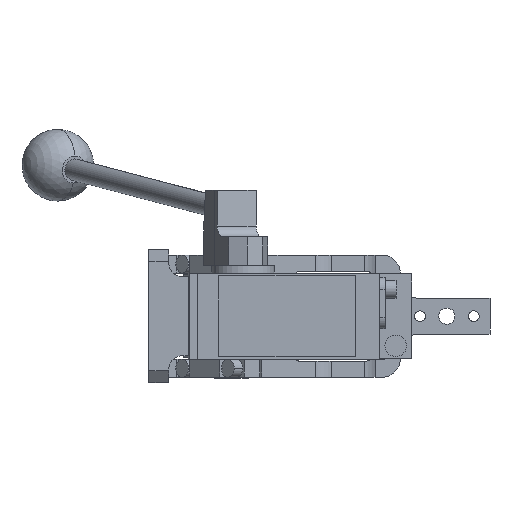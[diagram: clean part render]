
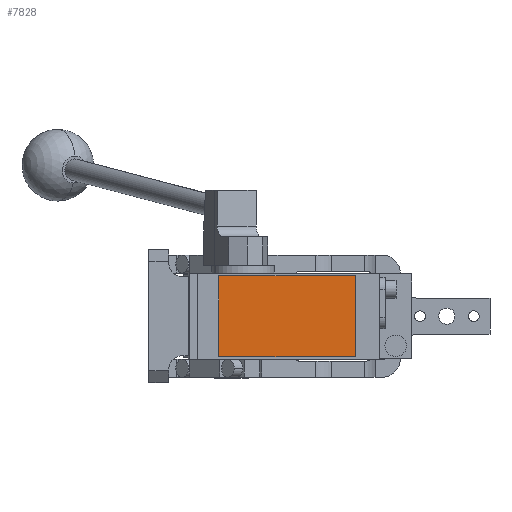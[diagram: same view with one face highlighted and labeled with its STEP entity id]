
A CAD part, front view. The second image highlights one B-rep face of the part: STEP entity #7828.
In plain terms, the highlighted planar face has unit normal (0, -1, 0).
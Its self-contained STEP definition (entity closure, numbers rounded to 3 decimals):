
#409 = CARTESIAN_POINT ( 'NONE',  ( -7., -280.5, 22.5 ) ) ;
#923 = CARTESIAN_POINT ( 'NONE',  ( -7., -280.5, -22.5 ) ) ;
#965 = EDGE_CURVE ( 'NONE', #5249, #5210, #15199, .T. ) ;
#1443 = VERTEX_POINT ( 'NONE', #4477 ) ;
#1652 = LINE ( 'NONE', #409, #4927 ) ;
#1692 = EDGE_CURVE ( 'NONE', #1443, #5249, #9646, .T. ) ;
#2604 = DIRECTION ( 'NONE',  ( 0., 0., -1. ) ) ;
#2865 = DIRECTION ( 'NONE',  ( -1., 0., 0. ) ) ;
#2981 = VECTOR ( 'NONE', #7024, 1000. ) ;
#3198 = ORIENTED_EDGE ( 'NONE', *, *, #1692, .T. ) ;
#3478 = DIRECTION ( 'NONE',  ( 0., 0., 1. ) ) ;
#4081 = EDGE_LOOP ( 'NONE', ( #8521, #9426, #3198, #10963 ) ) ;
#4477 = CARTESIAN_POINT ( 'NONE',  ( 69., -280.5, -22.5 ) ) ;
#4927 = VECTOR ( 'NONE', #5310, 1000. ) ;
#4978 = DIRECTION ( 'NONE',  ( 0., -1., 0. ) ) ;
#5210 = VERTEX_POINT ( 'NONE', #13107 ) ;
#5212 = CARTESIAN_POINT ( 'NONE',  ( -7., -280.5, -22.5 ) ) ;
#5249 = VERTEX_POINT ( 'NONE', #5574 ) ;
#5310 = DIRECTION ( 'NONE',  ( 0., 0., -1. ) ) ;
#5574 = CARTESIAN_POINT ( 'NONE',  ( 69., -280.5, 22.5 ) ) ;
#6117 = EDGE_CURVE ( 'NONE', #7757, #1443, #13025, .T. ) ;
#7024 = DIRECTION ( 'NONE',  ( 1., 0., 0. ) ) ;
#7239 = AXIS2_PLACEMENT_3D ( 'NONE', #9977, #4978, #2604 ) ;
#7757 = VERTEX_POINT ( 'NONE', #5212 ) ;
#7828 = ADVANCED_FACE ( 'NONE', ( #16011 ), #12329, .T. ) ;
#8278 = VECTOR ( 'NONE', #2865, 1000. ) ;
#8521 = ORIENTED_EDGE ( 'NONE', *, *, #8809, .T. ) ;
#8809 = EDGE_CURVE ( 'NONE', #5210, #7757, #1652, .T. ) ;
#9426 = ORIENTED_EDGE ( 'NONE', *, *, #6117, .T. ) ;
#9646 = LINE ( 'NONE', #14578, #12966 ) ;
#9977 = CARTESIAN_POINT ( 'NONE',  ( 0., -280.5, 0. ) ) ;
#10963 = ORIENTED_EDGE ( 'NONE', *, *, #965, .T. ) ;
#12329 = PLANE ( 'NONE',  #7239 ) ;
#12515 = CARTESIAN_POINT ( 'NONE',  ( -7., -280.5, 22.5 ) ) ;
#12966 = VECTOR ( 'NONE', #3478, 1000. ) ;
#13025 = LINE ( 'NONE', #923, #2981 ) ;
#13107 = CARTESIAN_POINT ( 'NONE',  ( -7., -280.5, 22.5 ) ) ;
#14578 = CARTESIAN_POINT ( 'NONE',  ( 69., -280.5, 22.5 ) ) ;
#15199 = LINE ( 'NONE', #12515, #8278 ) ;
#16011 = FACE_OUTER_BOUND ( 'NONE', #4081, .T. ) ;
